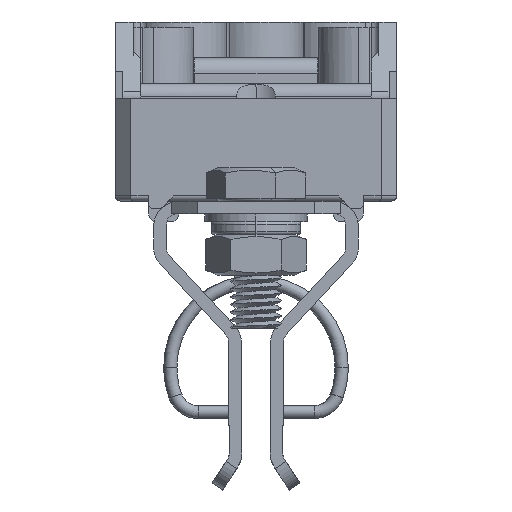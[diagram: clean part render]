
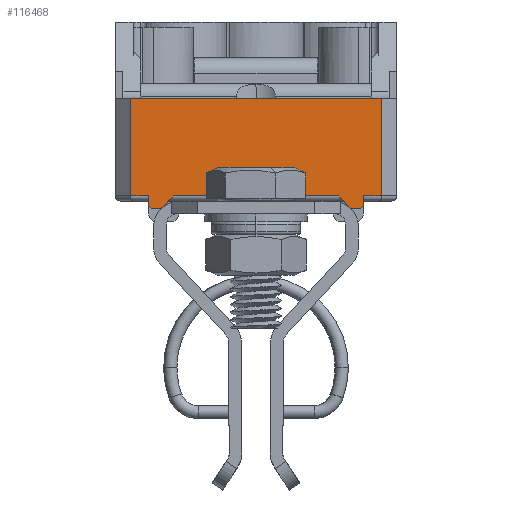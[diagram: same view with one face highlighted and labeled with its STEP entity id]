
A CAD part, left-side view. The second image highlights one B-rep face of the part: STEP entity #116468.
In plain terms, the highlighted planar face has unit normal (-1, 0, 0).
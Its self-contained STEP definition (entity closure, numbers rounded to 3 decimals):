
#555 = ORIENTED_EDGE ( 'NONE', *, *, #59614, .F. ) ;
#1480 = CARTESIAN_POINT ( 'NONE',  ( -73.335, -19.94, 114.5 ) ) ;
#2078 = VERTEX_POINT ( 'NONE', #32569 ) ;
#2666 = DIRECTION ( 'NONE',  ( 0., 0., 1. ) ) ;
#3627 = EDGE_CURVE ( 'NONE', #63104, #110328, #65946, .T. ) ;
#3668 = DIRECTION ( 'NONE',  ( 0., -0.707, -0.707 ) ) ;
#5115 = DIRECTION ( 'NONE',  ( 0., 0., 1. ) ) ;
#5141 = LINE ( 'NONE', #82118, #96030 ) ;
#7277 = EDGE_CURVE ( 'NONE', #100070, #118901, #53083, .T. ) ;
#9149 = VECTOR ( 'NONE', #122526, 1000. ) ;
#9733 = CARTESIAN_POINT ( 'NONE',  ( -73.335, 22.06, 113.5 ) ) ;
#12098 = CARTESIAN_POINT ( 'NONE',  ( -73.335, 25.56, 125. ) ) ;
#13499 = LINE ( 'NONE', #110738, #82193 ) ;
#14228 = EDGE_LOOP ( 'NONE', ( #85577, #70467, #71964, #102109, #555, #91397, #117008, #93404, #20565, #62794, #46726, #67292, #123599, #48826 ) ) ;
#17082 = CIRCLE ( 'NONE', #73505, 1. ) ;
#17822 = CARTESIAN_POINT ( 'NONE',  ( -73.335, -23.44, 135. ) ) ;
#18076 = LINE ( 'NONE', #96334, #48144 ) ;
#18925 = DIRECTION ( 'NONE',  ( 0., 0., 1. ) ) ;
#18950 = VECTOR ( 'NONE', #28542, 1000. ) ;
#20565 = ORIENTED_EDGE ( 'NONE', *, *, #79767, .F. ) ;
#20987 = CARTESIAN_POINT ( 'NONE',  ( -73.335, 21.06, 113.5 ) ) ;
#21389 = LINE ( 'NONE', #40278, #93341 ) ;
#22607 = EDGE_CURVE ( 'NONE', #31409, #88553, #76512, .T. ) ;
#24593 = CARTESIAN_POINT ( 'NONE',  ( -73.335, 17.13, 116. ) ) ;
#26638 = EDGE_CURVE ( 'NONE', #2078, #121580, #5141, .T. ) ;
#27025 = CARTESIAN_POINT ( 'NONE',  ( -73.335, 22.06, 116. ) ) ;
#28542 = DIRECTION ( 'NONE',  ( 0., 1., 0. ) ) ;
#31409 = VERTEX_POINT ( 'NONE', #17822 ) ;
#32569 = CARTESIAN_POINT ( 'NONE',  ( -73.335, 25.56, 116. ) ) ;
#32890 = CARTESIAN_POINT ( 'NONE',  ( -73.335, -26.44, 115. ) ) ;
#36770 = CARTESIAN_POINT ( 'NONE',  ( -73.335, -26.44, 135. ) ) ;
#37495 = DIRECTION ( 'NONE',  ( 0., -1., 0. ) ) ;
#38109 = DIRECTION ( 'NONE',  ( -1., 0., 0. ) ) ;
#40278 = CARTESIAN_POINT ( 'NONE',  ( -73.335, -17.476, 113.535 ) ) ;
#46726 = ORIENTED_EDGE ( 'NONE', *, *, #7277, .T. ) ;
#47727 = CARTESIAN_POINT ( 'NONE',  ( -73.335, -17.511, 113.5 ) ) ;
#48144 = VECTOR ( 'NONE', #106410, 1000. ) ;
#48826 = ORIENTED_EDGE ( 'NONE', *, *, #22607, .T. ) ;
#50801 = DIRECTION ( 'NONE',  ( 0., 1., 0. ) ) ;
#51240 = DIRECTION ( 'NONE',  ( -1., 0., 0. ) ) ;
#51509 = LINE ( 'NONE', #117827, #71350 ) ;
#53083 = LINE ( 'NONE', #91581, #71628 ) ;
#53258 = VECTOR ( 'NONE', #95010, 1000. ) ;
#55836 = DIRECTION ( 'NONE',  ( 0., -0.707, 0.707 ) ) ;
#56035 = EDGE_CURVE ( 'NONE', #93828, #121580, #66591, .T. ) ;
#58621 = CARTESIAN_POINT ( 'NONE',  ( -73.335, -15.011, 116. ) ) ;
#59614 = EDGE_CURVE ( 'NONE', #63104, #122477, #13499, .T. ) ;
#59872 = EDGE_CURVE ( 'NONE', #2078, #88553, #98593, .T. ) ;
#61206 = EDGE_CURVE ( 'NONE', #31409, #92542, #18076, .T. ) ;
#61349 = CARTESIAN_POINT ( 'NONE',  ( -73.335, 19.63, 113.5 ) ) ;
#62794 = ORIENTED_EDGE ( 'NONE', *, *, #72512, .T. ) ;
#63104 = VERTEX_POINT ( 'NONE', #61349 ) ;
#65946 = LINE ( 'NONE', #73522, #114984 ) ;
#66591 = LINE ( 'NONE', #9733, #53258 ) ;
#67159 = LINE ( 'NONE', #114507, #118384 ) ;
#67292 = ORIENTED_EDGE ( 'NONE', *, *, #124664, .T. ) ;
#67514 = CARTESIAN_POINT ( 'NONE',  ( -73.335, -18.94, 114.5 ) ) ;
#70467 = ORIENTED_EDGE ( 'NONE', *, *, #26638, .T. ) ;
#71350 = VECTOR ( 'NONE', #90011, 1000. ) ;
#71628 = VECTOR ( 'NONE', #5115, 1000. ) ;
#71881 = EDGE_CURVE ( 'NONE', #93828, #122477, #95511, .T. ) ;
#71964 = ORIENTED_EDGE ( 'NONE', *, *, #56035, .F. ) ;
#72512 = EDGE_CURVE ( 'NONE', #75086, #100070, #17082, .T. ) ;
#73314 = FACE_OUTER_BOUND ( 'NONE', #14228, .T. ) ;
#73505 = AXIS2_PLACEMENT_3D ( 'NONE', #67514, #123117, #18925 ) ;
#73522 = CARTESIAN_POINT ( 'NONE',  ( -73.335, 19.595, 113.535 ) ) ;
#75086 = VERTEX_POINT ( 'NONE', #96303 ) ;
#76512 = LINE ( 'NONE', #36770, #18950 ) ;
#79767 = EDGE_CURVE ( 'NONE', #75086, #93248, #51509, .T. ) ;
#79788 = CARTESIAN_POINT ( 'NONE',  ( -73.335, -19.94, 116. ) ) ;
#82118 = CARTESIAN_POINT ( 'NONE',  ( -73.335, -26.44, 116. ) ) ;
#82193 = VECTOR ( 'NONE', #50801, 1000. ) ;
#85577 = ORIENTED_EDGE ( 'NONE', *, *, #59872, .F. ) ;
#88553 = VERTEX_POINT ( 'NONE', #114103 ) ;
#90011 = DIRECTION ( 'NONE',  ( 0., 1., 0. ) ) ;
#91397 = ORIENTED_EDGE ( 'NONE', *, *, #3627, .T. ) ;
#91581 = CARTESIAN_POINT ( 'NONE',  ( -73.335, -19.94, 113.5 ) ) ;
#91634 = PLANE ( 'NONE',  #93633 ) ;
#92542 = VERTEX_POINT ( 'NONE', #120986 ) ;
#93248 = VERTEX_POINT ( 'NONE', #47727 ) ;
#93341 = VECTOR ( 'NONE', #3668, 1000. ) ;
#93404 = ORIENTED_EDGE ( 'NONE', *, *, #122634, .T. ) ;
#93633 = AXIS2_PLACEMENT_3D ( 'NONE', #32890, #51240, #121320 ) ;
#93828 = VERTEX_POINT ( 'NONE', #122603 ) ;
#95010 = DIRECTION ( 'NONE',  ( 0., 0., 1. ) ) ;
#95511 = CIRCLE ( 'NONE', #123825, 1. ) ;
#96030 = VECTOR ( 'NONE', #99805, 1000. ) ;
#96303 = CARTESIAN_POINT ( 'NONE',  ( -73.335, -18.94, 113.5 ) ) ;
#96334 = CARTESIAN_POINT ( 'NONE',  ( -73.335, -23.44, 125. ) ) ;
#98593 = LINE ( 'NONE', #12098, #114565 ) ;
#99805 = DIRECTION ( 'NONE',  ( 0., -1., 0. ) ) ;
#100070 = VERTEX_POINT ( 'NONE', #1480 ) ;
#100207 = VERTEX_POINT ( 'NONE', #58621 ) ;
#102109 = ORIENTED_EDGE ( 'NONE', *, *, #71881, .T. ) ;
#106410 = DIRECTION ( 'NONE',  ( 0., 0., -1. ) ) ;
#110328 = VERTEX_POINT ( 'NONE', #24593 ) ;
#110738 = CARTESIAN_POINT ( 'NONE',  ( -73.335, 19.56, 113.5 ) ) ;
#110855 = EDGE_CURVE ( 'NONE', #110328, #100207, #67159, .T. ) ;
#111774 = LINE ( 'NONE', #112384, #9149 ) ;
#112384 = CARTESIAN_POINT ( 'NONE',  ( -73.335, -26.44, 116. ) ) ;
#114103 = CARTESIAN_POINT ( 'NONE',  ( -73.335, 25.56, 135. ) ) ;
#114507 = CARTESIAN_POINT ( 'NONE',  ( -73.335, -26.44, 116. ) ) ;
#114565 = VECTOR ( 'NONE', #2666, 1000. ) ;
#114984 = VECTOR ( 'NONE', #55836, 1000. ) ;
#115168 = DIRECTION ( 'NONE',  ( 0., 0., 1. ) ) ;
#116468 = ADVANCED_FACE ( 'NONE', ( #73314 ), #91634, .T. ) ;
#117008 = ORIENTED_EDGE ( 'NONE', *, *, #110855, .T. ) ;
#117827 = CARTESIAN_POINT ( 'NONE',  ( -73.335, -17.44, 113.5 ) ) ;
#118384 = VECTOR ( 'NONE', #37495, 1000. ) ;
#118901 = VERTEX_POINT ( 'NONE', #79788 ) ;
#120986 = CARTESIAN_POINT ( 'NONE',  ( -73.335, -23.44, 116. ) ) ;
#121320 = DIRECTION ( 'NONE',  ( 0., 0., 1. ) ) ;
#121580 = VERTEX_POINT ( 'NONE', #27025 ) ;
#122477 = VERTEX_POINT ( 'NONE', #20987 ) ;
#122526 = DIRECTION ( 'NONE',  ( 0., -1., 0. ) ) ;
#122603 = CARTESIAN_POINT ( 'NONE',  ( -73.335, 22.06, 114.5 ) ) ;
#122634 = EDGE_CURVE ( 'NONE', #100207, #93248, #21389, .T. ) ;
#123117 = DIRECTION ( 'NONE',  ( -1., 0., 0. ) ) ;
#123599 = ORIENTED_EDGE ( 'NONE', *, *, #61206, .F. ) ;
#123825 = AXIS2_PLACEMENT_3D ( 'NONE', #124640, #38109, #115168 ) ;
#124640 = CARTESIAN_POINT ( 'NONE',  ( -73.335, 21.06, 114.5 ) ) ;
#124664 = EDGE_CURVE ( 'NONE', #118901, #92542, #111774, .T. ) ;
